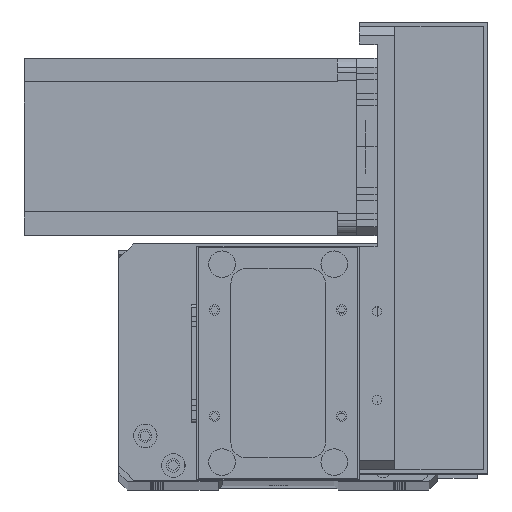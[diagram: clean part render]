
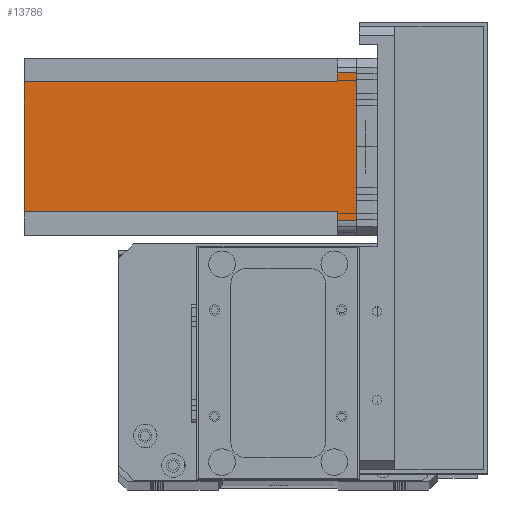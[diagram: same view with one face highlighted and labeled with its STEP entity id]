
A CAD part, top view. The second image highlights one B-rep face of the part: STEP entity #13786.
In plain terms, the highlighted planar face has unit normal (0, 0, 1) as drawn and (0, 1, 0) by its records, which use the part's own axes.
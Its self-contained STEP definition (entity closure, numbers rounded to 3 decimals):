
#258 = VECTOR ( 'NONE', #10361, 1000. ) ;
#282 = VECTOR ( 'NONE', #7970, 1000. ) ;
#1676 = VERTEX_POINT ( 'NONE', #18592 ) ;
#2644 = DIRECTION ( 'NONE',  ( -1., 0., 0. ) ) ;
#2661 = DIRECTION ( 'NONE',  ( 0., 0., -1. ) ) ;
#3159 = VECTOR ( 'NONE', #15559, 1000. ) ;
#3183 = EDGE_CURVE ( 'NONE', #5467, #27961, #13385, .T. ) ;
#3320 = CARTESIAN_POINT ( 'NONE',  ( 52., 60., -6.5 ) ) ;
#3718 = LINE ( 'NONE', #5085, #16825 ) ;
#3846 = CARTESIAN_POINT ( 'NONE',  ( 52., 60., -112.5 ) ) ;
#3851 = CARTESIAN_POINT ( 'NONE',  ( 52., 60., -6.5 ) ) ;
#3866 = VERTEX_POINT ( 'NONE', #12353 ) ;
#4276 = LINE ( 'NONE', #3320, #11610 ) ;
#4824 = VERTEX_POINT ( 'NONE', #11192 ) ;
#4921 = DIRECTION ( 'NONE',  ( 0., 1., 0. ) ) ;
#5085 = CARTESIAN_POINT ( 'NONE',  ( 8., 60., -6.5 ) ) ;
#5467 = VERTEX_POINT ( 'NONE', #3846 ) ;
#6186 = CARTESIAN_POINT ( 'NONE',  ( 55., 60., -112.5 ) ) ;
#6200 = VERTEX_POINT ( 'NONE', #14643 ) ;
#7355 = ORIENTED_EDGE ( 'NONE', *, *, #22036, .F. ) ;
#7453 = ORIENTED_EDGE ( 'NONE', *, *, #11723, .T. ) ;
#7755 = CARTESIAN_POINT ( 'NONE',  ( 52., 60., -112.5 ) ) ;
#7884 = LINE ( 'NONE', #19753, #26778 ) ;
#7970 = DIRECTION ( 'NONE',  ( -1., 0., 0. ) ) ;
#8861 = EDGE_CURVE ( 'NONE', #4824, #6200, #20575, .T. ) ;
#9349 = CARTESIAN_POINT ( 'NONE',  ( 8., 60., -112.5 ) ) ;
#9698 = LINE ( 'NONE', #25363, #3159 ) ;
#10336 = EDGE_LOOP ( 'NONE', ( #7355, #11454, #12788, #16360, #10437, #11061, #7453, #29507 ) ) ;
#10361 = DIRECTION ( 'NONE',  ( 0., 0., 1. ) ) ;
#10437 = ORIENTED_EDGE ( 'NONE', *, *, #3183, .T. ) ;
#11061 = ORIENTED_EDGE ( 'NONE', *, *, #25923, .F. ) ;
#11192 = CARTESIAN_POINT ( 'NONE',  ( 55., 60., 0. ) ) ;
#11454 = ORIENTED_EDGE ( 'NONE', *, *, #8861, .T. ) ;
#11558 = EDGE_CURVE ( 'NONE', #1676, #23162, #21476, .T. ) ;
#11610 = VECTOR ( 'NONE', #18067, 1000. ) ;
#11723 = EDGE_CURVE ( 'NONE', #3866, #1676, #3718, .T. ) ;
#12353 = CARTESIAN_POINT ( 'NONE',  ( 8., 60., -6.5 ) ) ;
#12368 = CARTESIAN_POINT ( 'NONE',  ( 5., 60., 0. ) ) ;
#12416 = EDGE_CURVE ( 'NONE', #5467, #17131, #18368, .T. ) ;
#12788 = ORIENTED_EDGE ( 'NONE', *, *, #28279, .F. ) ;
#13385 = LINE ( 'NONE', #22720, #282 ) ;
#13786 = ADVANCED_FACE ( 'NONE', ( #21377 ), #32008, .T. ) ;
#14643 = CARTESIAN_POINT ( 'NONE',  ( 55., 60., -6.5 ) ) ;
#15559 = DIRECTION ( 'NONE',  ( -1., 0., 0. ) ) ;
#16360 = ORIENTED_EDGE ( 'NONE', *, *, #12416, .F. ) ;
#16825 = VECTOR ( 'NONE', #2644, 1000. ) ;
#17131 = VERTEX_POINT ( 'NONE', #3851 ) ;
#18067 = DIRECTION ( 'NONE',  ( 1., 0., 0. ) ) ;
#18368 = LINE ( 'NONE', #7755, #258 ) ;
#18592 = CARTESIAN_POINT ( 'NONE',  ( 5., 60., -6.5 ) ) ;
#19664 = CARTESIAN_POINT ( 'NONE',  ( 0., 60., -112.5 ) ) ;
#19753 = CARTESIAN_POINT ( 'NONE',  ( 8., 60., -112.5 ) ) ;
#20575 = LINE ( 'NONE', #6186, #27149 ) ;
#20663 = VECTOR ( 'NONE', #21834, 1000. ) ;
#21377 = FACE_OUTER_BOUND ( 'NONE', #10336, .T. ) ;
#21476 = LINE ( 'NONE', #24196, #20663 ) ;
#21834 = DIRECTION ( 'NONE',  ( 0., 0., 1. ) ) ;
#22036 = EDGE_CURVE ( 'NONE', #4824, #23162, #9698, .T. ) ;
#22173 = DIRECTION ( 'NONE',  ( 0., 0., 1. ) ) ;
#22720 = CARTESIAN_POINT ( 'NONE',  ( 0., 60., -112.5 ) ) ;
#23162 = VERTEX_POINT ( 'NONE', #12368 ) ;
#24196 = CARTESIAN_POINT ( 'NONE',  ( 5., 60., -112.5 ) ) ;
#25363 = CARTESIAN_POINT ( 'NONE',  ( 0., 60., 0. ) ) ;
#25420 = AXIS2_PLACEMENT_3D ( 'NONE', #19664, #4921, #22173 ) ;
#25923 = EDGE_CURVE ( 'NONE', #3866, #27961, #7884, .T. ) ;
#26778 = VECTOR ( 'NONE', #2661, 1000. ) ;
#27149 = VECTOR ( 'NONE', #30802, 1000. ) ;
#27961 = VERTEX_POINT ( 'NONE', #9349 ) ;
#28279 = EDGE_CURVE ( 'NONE', #17131, #6200, #4276, .T. ) ;
#29507 = ORIENTED_EDGE ( 'NONE', *, *, #11558, .T. ) ;
#30802 = DIRECTION ( 'NONE',  ( 0., 0., -1. ) ) ;
#32008 = PLANE ( 'NONE',  #25420 ) ;
